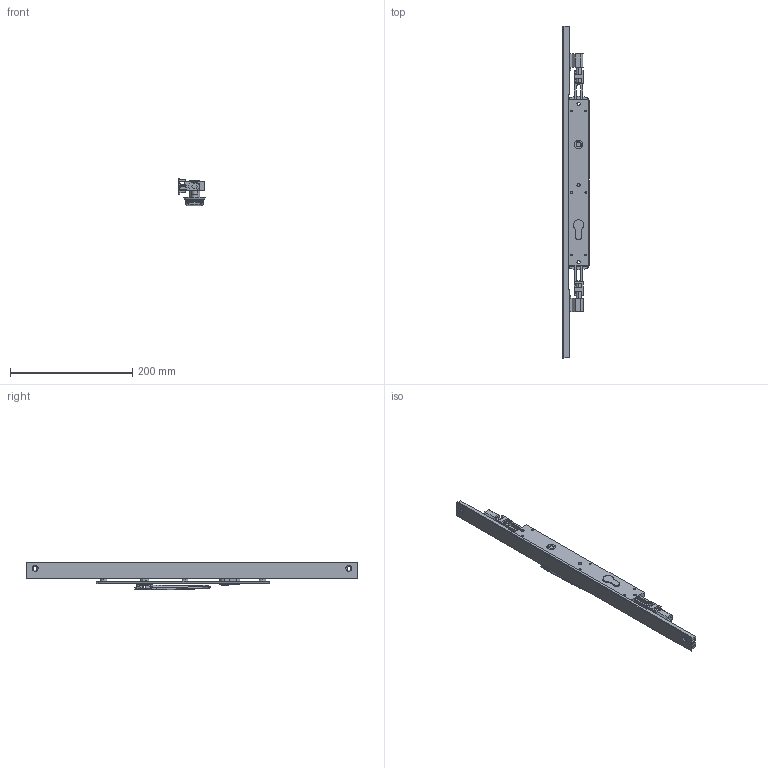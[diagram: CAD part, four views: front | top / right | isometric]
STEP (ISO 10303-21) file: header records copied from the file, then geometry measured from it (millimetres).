
FILE_DESCRIPTION (( 'STEP AP214' ), '1' );
FILE_NAME ('TPL-W-EU-617-L 06Nov2024.STEP', '2024-11-27T03:58:47', ( '' ), ( '' ), 'SwSTEP 2.0', 'SolidWorks 2023', '' );
FILE_SCHEMA (( 'AUTOMOTIVE_DESIGN' ));
Length unit declared in the file: millimetre
Products named in the file (19): TPL-W-EU-617-L 06Nov2024; Copy of Adapter CnE - simplfied^TPL-W-EU-117 04Nov2024_26mm backset; Copy of Copy of LKC-531 Lock twinpoint transmission rod wood system^TPL-W-EU-117 04Nov2024_Standard Range 2891.7mm; Copy of COV-112-A Cover A suit TPLGen2 standard range^TPL-W-EU-117 04Nov2024_2870mm; Copy of COV-112-C Cover C TPLGen2 Lock body^TPL-W-EU-117 04Nov2024; Bolt.step; Copy of LKC-585 Rotator body zinc^Copy of TPGen2 handle keyed internal zinc - simplified_TPL-W-EU-117 04Nov2024; Copy of TPL-W-EU-130 04Nov2024^TPL-W-EU-117 04Nov2024_TPL-022 Right; Copy of TPLGen2 lock body keyed assembly^TPL-W-EU-117 04Nov2024_Bolts extended; Copy (2) of COV-112-B Cover B suit TPLGen2 standard range^TPL-W-EU-117 04Nov2024_2870mm; Copy of LKC-586 Spindle square 8mm with M4 hole^Copy of TPGen2 handle keyed internal zinc - simplified_TPL-W-EU-117 04Nov2024_25mm; Copy of Adapter DnF - simplfied^TPL-W-EU-117 04Nov2024_26mm backset; Copy of TPGen2 handle keyed internal zinc - simplified^TPL-W-EU-117 04Nov2024_Vertical; Copy of TPLGen2 lock body keyed^Copy of TPLGen2 lock body keyed assembly_TPL-W-EU-117 04Nov2024; Copy of Copy of Copy of LKC-531 Lock twinpoint transmission rod wood system^TPL-W-EU-117 04Nov2024_Standard Range 2891.7mm; Copy of LKC-512 Escutcheon plate keyed internal 285mm long zinc - simplified^Copy of TPGen2 handle keyed internal zinc - simplified_TPL-W-EU-117 04Nov2024; Copy of LKC-584 Pivot body zinc - simplified^Copy of TPGen2 handle keyed internal zinc - simplified_TPL-W-EU-117 04Nov2024; Copy of TPLGen2 push rod - simplified^Copy of TPLGen2 lock body keyed assembly_TPL-W-EU-117 04Nov2024_Female thread M10; Copy of LKC-505 Swing handle zinc - simplified^Copy of TPGen2 handle keyed internal zinc - simplified_TPL-W-EU-117 04Nov2024
Assembly tree (16 placements, depth 3):
  TPL-W-EU-617-L 06Nov2024
    Copy of TPLGen2 lock body keyed assembly^TPL-W-EU-117 04Nov2024_Bolts extended
      Copy of TPLGen2 lock body keyed^Copy of TPLGen2 lock body keyed assembly_TPL-W-EU-117 04Nov2024
      Copy of TPLGen2 push rod - simplified^Copy of TPLGen2 lock body keyed assembly_TPL-W-EU-117 04Nov2024_Female thread M10  x2
    Copy of TPGen2 handle keyed internal zinc - simplified^TPL-W-EU-117 04Nov2024_Vertical
      Copy of LKC-512 Escutcheon plate keyed internal 285mm long zinc - simplified^Copy of TPGen2 handle keyed internal zinc - simplified_TPL-W-EU-117 04Nov2024
      Copy of LKC-505 Swing handle zinc - simplified^Copy of TPGen2 handle keyed internal zinc - simplified_TPL-W-EU-117 04Nov2024
      Copy of LKC-585 Rotator body zinc^Copy of TPGen2 handle keyed internal zinc - simplified_TPL-W-EU-117 04Nov2024
      Copy of LKC-586 Spindle square 8mm with M4 hole^Copy of TPGen2 handle keyed internal zinc - simplified_TPL-W-EU-117 04Nov2024_25mm
      Copy of LKC-584 Pivot body zinc - simplified^Copy of TPGen2 handle keyed internal zinc - simplified_TPL-W-EU-117 04Nov2024
    Copy of TPL-W-EU-130 04Nov2024^TPL-W-EU-117 04Nov2024_TPL-022 Right
    Copy of COV-112-C Cover C TPLGen2 Lock body^TPL-W-EU-117 04Nov2024
    Copy of Copy of LKC-531 Lock twinpoint transmission rod wood system^TPL-W-EU-117 04Nov2024_Standard Range 2891.7mm
    Copy of Copy of Copy of LKC-531 Lock twinpoint transmission rod wood system^TPL-W-EU-117 04Nov2024_Standard Range 2891.7mm
    Copy of Adapter CnE - simplfied^TPL-W-EU-117 04Nov2024_26mm backset
    Copy of Adapter DnF - simplfied^TPL-W-EU-117 04Nov2024_26mm backset
  Copy of COV-112-A Cover A suit TPLGen2 standard range^TPL-W-EU-117 04Nov2024_2870mm
  Bolt.step
  Copy (2) of COV-112-B Cover B suit TPLGen2 standard range^TPL-W-EU-117 04Nov2024_2870mm
Bounding box: 43.5 x 544 x 45.86 mm (x, y, z)
Volume: 281244 mm3; surface area: 138721.9 mm2
Topology: 14 solids, 14 shells, 920 faces, 2290 edges, 1428 vertices
Faces by surface type: plane 325, bspline 241, cylinder 229, cone 71, torus 46, sphere 8
Entity records: 33075 total; most frequent: CARTESIAN_POINT 13046, ORIENTED_EDGE 4388, DIRECTION 3625, EDGE_CURVE 2194, VERTEX_POINT 1368, AXIS2_PLACEMENT_3D 1333, EDGE_LOOP 984, LINE 959
